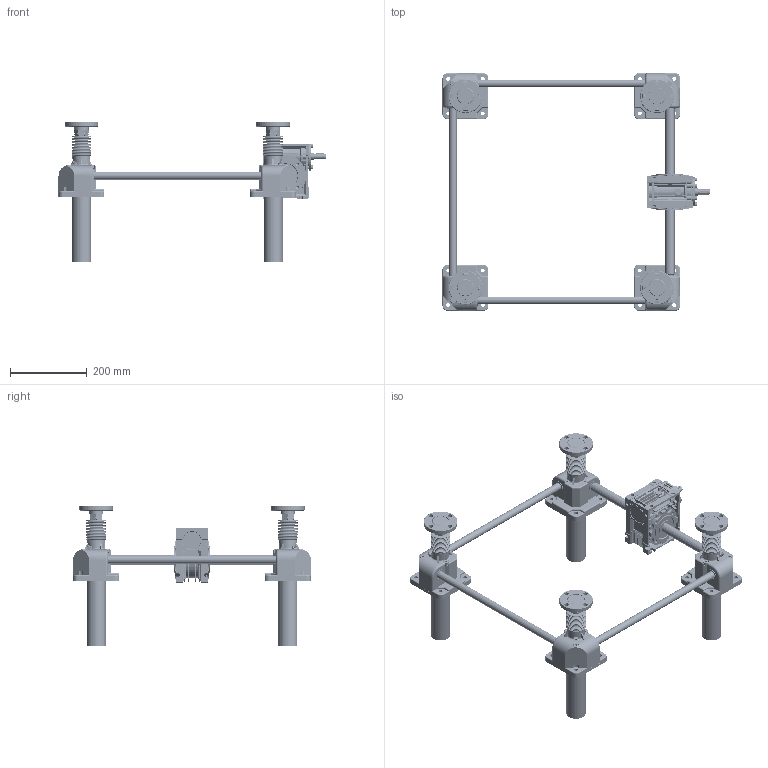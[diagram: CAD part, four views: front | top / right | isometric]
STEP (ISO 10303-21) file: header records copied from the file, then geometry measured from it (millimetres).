
FILE_DESCRIPTION(('STEP AP203'),'1');
FILE_NAME('SPH900FCJ-500x500-250-150ST_CAP-050.stp','2016-08-18T02:29:29',(' '),(' '),'Spatial InterOp 3D',' ',' ');
FILE_SCHEMA(('CONFIG_CONTROL_DESIGN'));
Length unit declared in the file: millimetre
Products named in the file (210): SPH900FCJ-500x500-250-150ST_CAP-050; Rack Gear(SP-900FC); Flange.1-Part; Flange.1; Joint.1; Nut.1; Flange.2-Part; Flange.2; Joint.2; Nut.2; Flange.3-Part; Flange.3; Joint.3; Nut.3; Flange.4-Part; Flange.4; Joint.4; Nut.4; Bellow(SP-900); Body.1-Part; Nipple; Bolt; Gear Box.1(Upper); Body_stand by; Gear Box.1(Lower); LOGO; LABEL-B.1; ___; 파트18; __ ; Body.2-Part; Mark.2; Part1.8; Gear Box.2(Upper); Gear Box.2(Lower); Body.3-Part; Mark.3; Gear Box.3(Upper); Gear Box.3(Lower); Body.4-Part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
Assembly tree (213 placements, depth 6):
  SPH900FCJ-500x500-250-150ST_CAP-050
    Rack Gear(SP-900FC)  x4
    Flange.1-Part
      Flange.1
      Joint.1
      Nut.1
    Flange.2-Part
      Flange.2
      Joint.2
      Nut.2
    Flange.3-Part
      Flange.3
      Joint.3
      Nut.3
    Flange.4-Part
      Flange.4
      Joint.4
      Nut.4
    Bellow(SP-900)
    Bellow(SP-900)
    Bellow(SP-900)
    Bellow(SP-900)
    Body.1-Part
      Nipple
      Bolt
      Bolt
      Bolt
      Gear Box.1(Upper)
        Body_stand by
        Body_stand by
        Body_stand by
        Body_stand by
      Gear Box.1(Lower)
        Body_stand by
        Body_stand by
        Body_stand by
        Body_stand by
      __ 
        ___
          LOGO
            LABEL-B.1
          파트18
    Body.2-Part
      Nipple
      Bolt
      Bolt
      Bolt
      Mark.2
        Part1.8
        Part1.8
        Part1.8
        Part1.8
        Part1.8
        Part1.8
        Part1.8
        Part1.8
        Part1.8
        Part1.8
        Part1.8
        Part1.8
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Bounding box: 697.2 x 620.25 x 365 mm (x, y, z)
Volume: 3616211.4 mm3; surface area: 1681173.6 mm2
Topology: 182 solids, 3209 shells, 16312 faces, 53176 edges, 40277 vertices
Faces by surface type: plane 12730, cylinder 2434, torus 440, cone 356, bspline 184, sphere 100, extrusion 36, revolution 32
Full cylindrical faces by diameter (mm): 2.5 x8, 3.113 x4, 3.775 x3, 4.917 x1, 5.55 x4, 6 x4, 6.4 x1, 6.6 x4, 6.647 x8, 8 x12, 8.8 x8, 10 x8, 12 x16, 14 x13, 16 x1, 20 x6, 25 x9, 27 x4, 28 x1, 30 x60, 34 x1, 37 x4, 38 x4, 40 x6, 41 x4, 41.1 x4, 41.5 x4, 42 x4, 44 x4, 44.5 x4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
Entity records: 586256 total; most frequent: CARTESIAN_POINT 154970, DIRECTION 82196, ORIENTED_EDGE 81667, EDGE_CURVE 48620, VECTOR 38956, LINE 38920, VERTEX_POINT 37765, AXIS2_PLACEMENT_3D 21604
